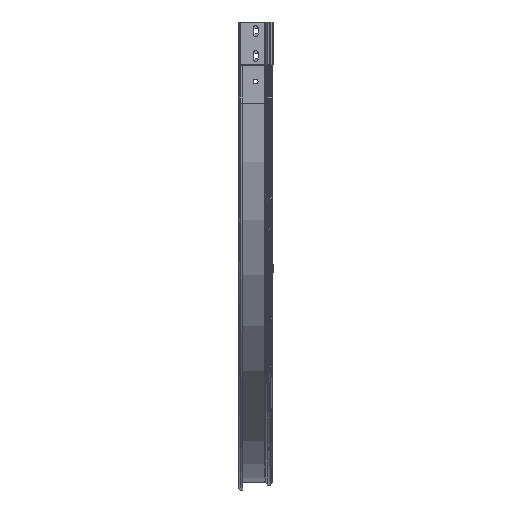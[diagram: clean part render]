
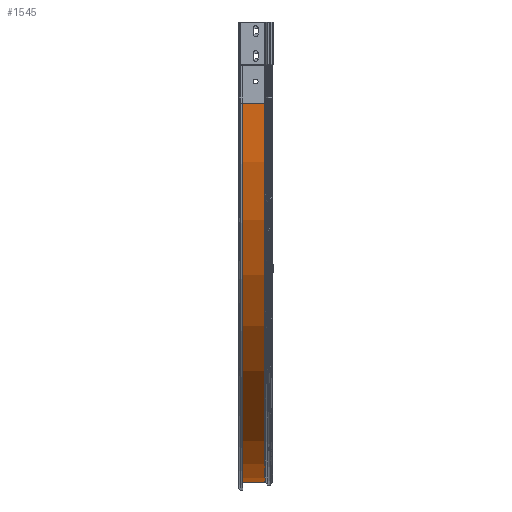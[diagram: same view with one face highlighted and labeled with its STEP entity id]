
A CAD part, left-side view. The second image highlights one B-rep face of the part: STEP entity #1545.
In plain terms, the highlighted cylindrical face has radius 701.2 mm (diameter 1402.4 mm), a partial arc.
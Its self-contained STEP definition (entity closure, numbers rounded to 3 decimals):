
#804 = FACE_OUTER_BOUND ( 'NONE', #12268, .T. ) ;
#925 = CARTESIAN_POINT ( 'NONE',  ( 700., 0., -150. ) ) ;
#1313 = DIRECTION ( 'NONE',  ( 0., 1., 0. ) ) ;
#1443 = EDGE_CURVE ( 'NONE', #9762, #9808, #8192, .T. ) ;
#1545 = ADVANCED_FACE ( 'NONE', ( #804 ), #4845, .T. ) ;
#2935 = CIRCLE ( 'NONE', #7639, 701.2 ) ;
#3036 = DIRECTION ( 'NONE',  ( 0., 1., 0. ) ) ;
#3435 = CARTESIAN_POINT ( 'NONE',  ( 700., 14.319, -851.2 ) ) ;
#3654 = EDGE_CURVE ( 'NONE', #4739, #9808, #11297, .T. ) ;
#4248 = ORIENTED_EDGE ( 'NONE', *, *, #10228, .F. ) ;
#4391 = CARTESIAN_POINT ( 'NONE',  ( 700., 59., -851.2 ) ) ;
#4600 = CARTESIAN_POINT ( 'NONE',  ( -1.2, 14.319, -150. ) ) ;
#4739 = VERTEX_POINT ( 'NONE', #6545 ) ;
#4845 = CYLINDRICAL_SURFACE ( 'NONE', #8057, 701.2 ) ;
#5041 = DIRECTION ( 'NONE',  ( 0., 0., 1. ) ) ;
#6545 = CARTESIAN_POINT ( 'NONE',  ( 700., 14.319, -851.2 ) ) ;
#6776 = DIRECTION ( 'NONE',  ( 0., 0., 1. ) ) ;
#6902 = CARTESIAN_POINT ( 'NONE',  ( 700., 14.319, -150. ) ) ;
#7093 = DIRECTION ( 'NONE',  ( 0., 0., 1. ) ) ;
#7302 = CARTESIAN_POINT ( 'NONE',  ( -1.2, 14.319, -150. ) ) ;
#7362 = VECTOR ( 'NONE', #11412, 1000. ) ;
#7639 = AXIS2_PLACEMENT_3D ( 'NONE', #8283, #1313, #7093 ) ;
#8057 = AXIS2_PLACEMENT_3D ( 'NONE', #925, #11602, #6776 ) ;
#8192 = LINE ( 'NONE', #7302, #10102 ) ;
#8283 = CARTESIAN_POINT ( 'NONE',  ( 700., 59., -150. ) ) ;
#8639 = AXIS2_PLACEMENT_3D ( 'NONE', #6902, #3036, #5041 ) ;
#9762 = VERTEX_POINT ( 'NONE', #12328 ) ;
#9808 = VERTEX_POINT ( 'NONE', #4600 ) ;
#10102 = VECTOR ( 'NONE', #11059, 1000. ) ;
#10228 = EDGE_CURVE ( 'NONE', #4739, #11864, #11232, .T. ) ;
#10480 = ORIENTED_EDGE ( 'NONE', *, *, #3654, .T. ) ;
#11059 = DIRECTION ( 'NONE',  ( 0., -1., 0. ) ) ;
#11084 = ORIENTED_EDGE ( 'NONE', *, *, #12174, .F. ) ;
#11232 = LINE ( 'NONE', #3435, #7362 ) ;
#11297 = CIRCLE ( 'NONE', #8639, 701.2 ) ;
#11412 = DIRECTION ( 'NONE',  ( 0., 1., 0. ) ) ;
#11602 = DIRECTION ( 'NONE',  ( 0., 1., 0. ) ) ;
#11864 = VERTEX_POINT ( 'NONE', #4391 ) ;
#12174 = EDGE_CURVE ( 'NONE', #11864, #9762, #2935, .T. ) ;
#12268 = EDGE_LOOP ( 'NONE', ( #11084, #4248, #10480, #12373 ) ) ;
#12328 = CARTESIAN_POINT ( 'NONE',  ( -1.2, 59., -150. ) ) ;
#12373 = ORIENTED_EDGE ( 'NONE', *, *, #1443, .F. ) ;
